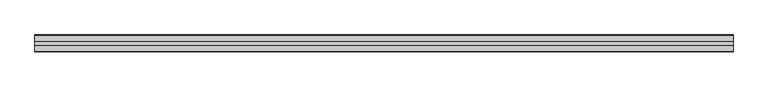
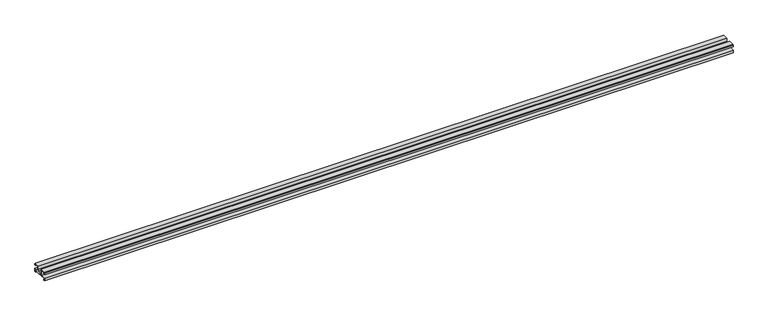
"""IFC4 building model written with IfcOpenShell, lengths in millimetres: proxy geometry, Weiku - Montante - Acoplamento vidro : Weiku - Montante - Acoplamento vidro."""

from ifc_helpers import new_model, si_unit, frame, origin, place, context, project, spatial, polyline, outline, extrude, source, transform, mapped, element, save


def generic_models_6ec70dbe(model_context):
    return source(origin(), model_context, "Body", "SweptSolid", [
        extrude(outline(polyline([(35.405, 5.1494), (12.495, 5.1494), (12.495, 6.8004), (2.159, 6.8004), (2.159, 2.6094), (4.0216, 2.6094), (4.0216, 0.0), (-0.0014508, 0.0), (-0.0014508, 8.79), (12.954, 8.79), (12.954, 23.3104), (4.3603, 23.3104), (4.3603, 19.204), (0.0, 19.204), (0.0, 22.8024), (0.9736, 22.8024), (0.9736, 20.3894), (3.175, 20.3894), (3.175, 23.9454), (2.3735496, 23.9454), (2.3735496, 25.3), (17.4836, 25.3), (17.4836, 16.283), (15.4516, 16.283), (15.4516, 8.8), (32.4484, 8.8), (32.4484, 16.283), (30.4164, 16.283), (30.4164, 25.3), (45.5264504, 25.3), (45.5264504, 23.9454), (44.725, 23.9454), (44.725, 20.3894), (46.9264, 20.3894), (46.9264, 22.8024), (47.9, 22.8024), (47.9, 19.204), (43.5397, 19.204), (43.5397, 23.3104), (34.946, 23.3104), (34.946, 8.79), (47.9014508, 8.79), (47.9014508, 0.0), (43.8784, 0.0), (43.8784, 2.6094), (45.741, 2.6094), (45.741, 6.8004), (35.405, 6.8004), (35.405, 5.1494)])), frame((-980.2, 0.0, 0.0), z_axis=(1.0, 0.0, 0.0), x_axis=(0.0, 1.0, 0.0)), (0.0, 0.0, 1.0), 1960.4),
    ])


if __name__ == "__main__":
    model = new_model("IFC4")
    model_context = context("Model", 3, world=origin())
    ifc_project = project(units=[si_unit("LENGTHUNIT", "METRE", prefix="MILLI")], contexts=[model_context])
    site = spatial("IfcSite", under=ifc_project)
    building = spatial("IfcBuilding", under=site)
    placement = place(None, origin())
    generic_models_shape = generic_models_6ec70dbe(model_context)
    element("IfcBuildingElementProxy", 1, Name="Weiku - Montante - Acoplamento vidro : Weiku - Montante - Acoplamento vidro", ObjectType="Weiku - Montante - Acoplamento vidro : Weiku - Montante - Acoplamento vidro", at=placement, inside=building, context=model_context, shape_type="MappedRepresentation", body=[
        mapped(generic_models_shape, transform((0.0, 0.0, 0.0), x_axis=(1.0, 0.0, 0.0), y_axis=(0.0, 1.0, 0.0), z_axis=(0.0, 0.0, 1.0))),
    ])
    save(model, "model.ifc")
